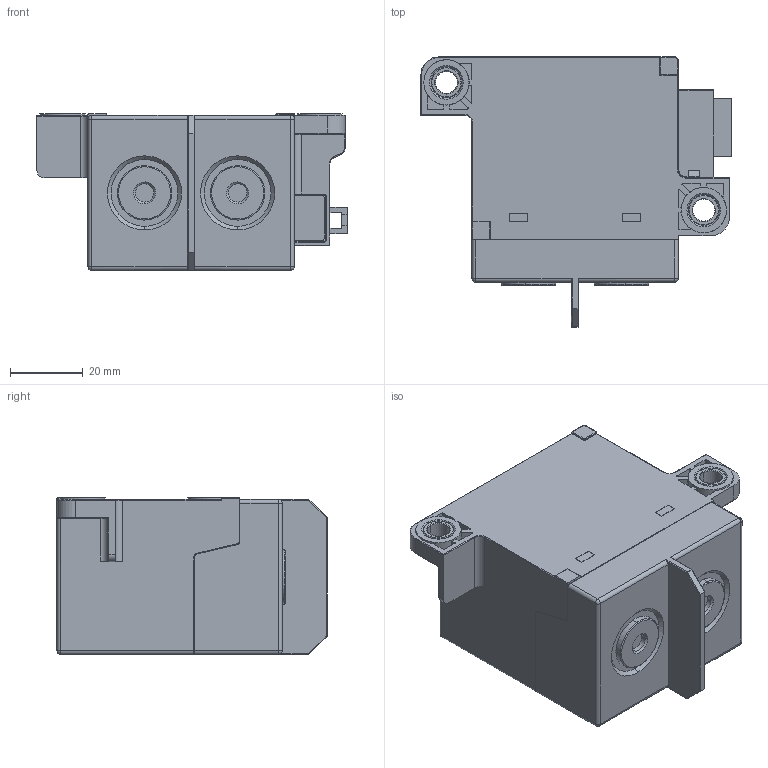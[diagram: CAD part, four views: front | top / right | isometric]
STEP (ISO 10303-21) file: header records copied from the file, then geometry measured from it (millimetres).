
FILE_DESCRIPTION (( 'STEP AP203' ), '1' );
FILE_NAME ('NDZ3AT-250C-Y拏宒杅耀.STEP', '2026-03-19T02:20:31', ( '' ), ( '' ), 'SwSTEP 2.0', 'SolidWorks 2018', '' );
FILE_SCHEMA (( 'CONFIG_CONTROL_DESIGN' ));
Length unit declared in the file: millimetre
Products named in the file (1): NDZ3AT-250C-Y拏宒杅耀
Bounding box: 85 x 74 x 43 mm (x, y, z)
Volume: 153600.1 mm3; surface area: 24078.4 mm2
Topology: 3 solids, 3 shells, 572 faces, 1509 edges, 941 vertices
Faces by surface type: plane 305, cylinder 198, torus 43, cone 12, sphere 12, bspline 2
Entity records: 17618 total; most frequent: CARTESIAN_POINT 3249, DIRECTION 3026, ORIENTED_EDGE 2994, EDGE_CURVE 1497, VECTOR 1010, LINE 1010, AXIS2_PLACEMENT_3D 1008, VERTEX_POINT 941
